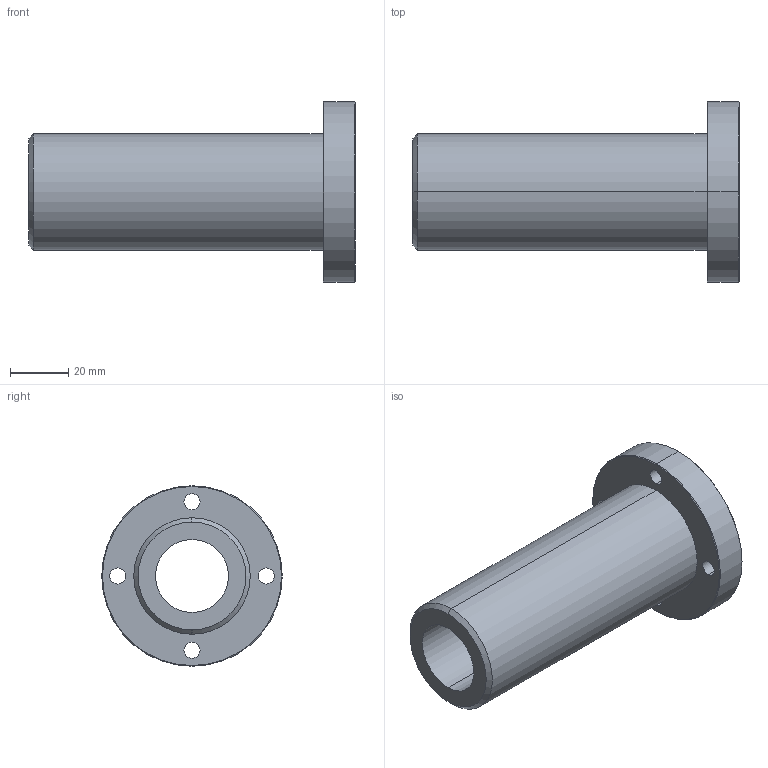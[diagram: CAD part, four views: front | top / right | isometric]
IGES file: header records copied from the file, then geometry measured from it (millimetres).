
Start section: 3D InterOp IGES (Version 21 0 1), Spatial Corp. Copyright (c) 1999-2007.
Global section: file name: DFPJR25.igs; native system: Spatial Corp.; preprocessor: 3D InterOp GENERIC/IGES 3.0; author: Noname; organization: Noname; date: 20220324.143739; units: millimetre
Bounding box: 112 x 62 x 62 mm (x, y, z)
Surface area: 29310.5 mm2 (no closed solid volume)
Topology: 0 solids, 0 shells, 35 faces, 156 edges, 156 vertices
Faces by surface type: revolution 28, extrusion 7
